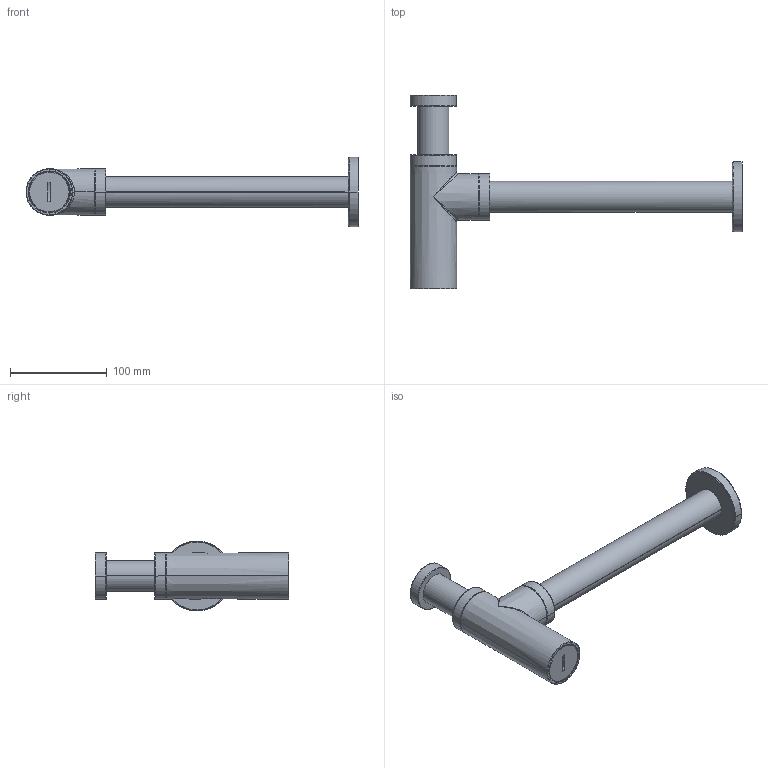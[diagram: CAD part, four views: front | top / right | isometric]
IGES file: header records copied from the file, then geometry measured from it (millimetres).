
Start section:  PTC IGES file: 92672.igs
Global section: file name: 92672.igs; native system: Creo Parametric by PTC Inc.; preprocessor: 2022014; author: carloff; organization: Unknown; date: 20240305.091602; units: millimetre
Bounding box: 342.5 x 200 x 72 mm (x, y, z)
Surface area: 175312.7 mm2 (no closed solid volume)
Topology: 0 solids, 0 shells, 239 faces, 1000 edges, 1000 vertices
Faces by surface type: revolution 179, bspline 60
